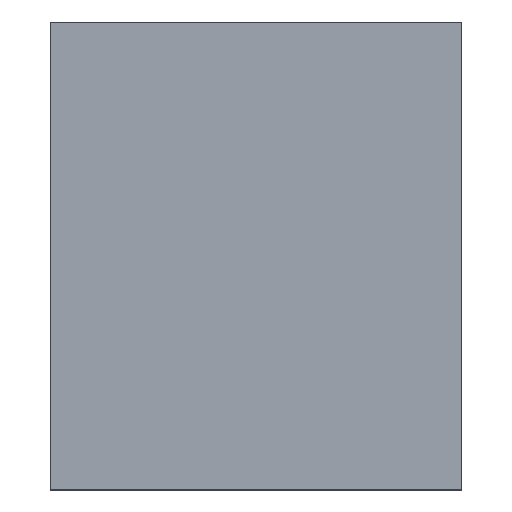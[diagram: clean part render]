
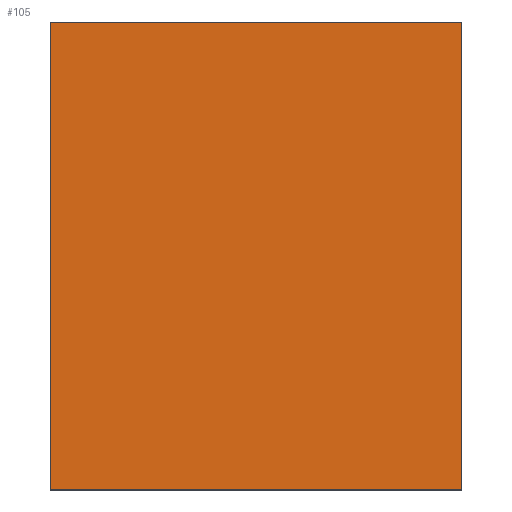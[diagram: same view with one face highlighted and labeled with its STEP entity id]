
A CAD part, top view. The second image highlights one B-rep face of the part: STEP entity #105.
In plain terms, the highlighted planar face has unit normal (0, 0, 1).
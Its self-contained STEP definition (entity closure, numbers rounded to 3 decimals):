
#19=FACE_OUTER_BOUND('',#25,.T.);
#25=EDGE_LOOP('',(#78,#79,#80,#81));
#30=LINE('',#154,#42);
#34=LINE('',#162,#46);
#35=LINE('',#164,#47);
#36=LINE('',#165,#48);
#42=VECTOR('',#128,10.);
#46=VECTOR('',#134,1000.);
#47=VECTOR('',#135,1000.);
#48=VECTOR('',#136,1000.);
#54=VERTEX_POINT('',#152);
#55=VERTEX_POINT('',#153);
#58=VERTEX_POINT('',#161);
#59=VERTEX_POINT('',#163);
#62=EDGE_CURVE('',#54,#55,#30,.T.);
#66=EDGE_CURVE('',#58,#55,#34,.T.);
#67=EDGE_CURVE('',#58,#59,#35,.T.);
#68=EDGE_CURVE('',#59,#54,#36,.T.);
#78=ORIENTED_EDGE('',*,*,#62,.T.);
#79=ORIENTED_EDGE('',*,*,#66,.F.);
#80=ORIENTED_EDGE('',*,*,#67,.T.);
#81=ORIENTED_EDGE('',*,*,#68,.T.);
#99=PLANE('',#119);
#105=ADVANCED_FACE('',(#19),#99,.F.);
#119=AXIS2_PLACEMENT_3D('',#160,#132,#133);
#128=DIRECTION('',(0.,1.,0.));
#132=DIRECTION('center_axis',(0.,0.,-1.));
#133=DIRECTION('ref_axis',(-1.,0.,0.));
#134=DIRECTION('',(1.,0.,0.));
#135=DIRECTION('',(0.,-1.,0.));
#136=DIRECTION('',(1.,0.,0.));
#152=CARTESIAN_POINT('',(-6.,0.,0.));
#153=CARTESIAN_POINT('',(-6.,50.,0.));
#154=CARTESIAN_POINT('',(-6.,50.,0.));
#160=CARTESIAN_POINT('Origin',(0.,50.,0.));
#161=CARTESIAN_POINT('',(-50.,50.,0.));
#162=CARTESIAN_POINT('',(0.,50.,0.));
#163=CARTESIAN_POINT('',(-50.,0.,0.));
#164=CARTESIAN_POINT('',(-50.,50.,0.));
#165=CARTESIAN_POINT('',(0.,0.,0.));
